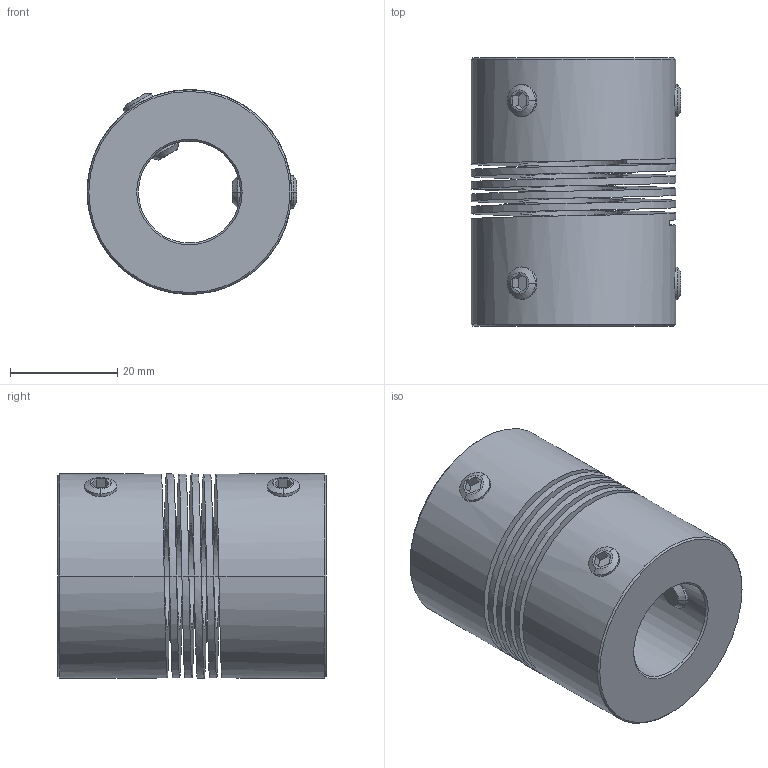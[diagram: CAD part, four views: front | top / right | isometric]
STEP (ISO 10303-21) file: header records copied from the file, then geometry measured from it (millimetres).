
FILE_DESCRIPTION((''),'2;1');
FILE_NAME('826_38_ASM','2006-12-06T',('Gary Melling'),(''),'PRO/ENGINEER BY PARAMETRIC TECHNOLOGY CORPORATION, 2006240','PRO/ENGINEER BY PARAMETRIC TECHNOLOGY CORPORATION, 2006240','');
FILE_SCHEMA(('CONFIG_CONTROL_DESIGN'));
Length unit declared in the file: millimetre
Products named in the file (3): 826_38; GS_6; 826_38_ASM
Assembly tree (5 placements, depth 2):
  826_38_ASM
    826_38
    GS_6  x4
Bounding box: 39.05 x 50 x 38.1 mm (x, y, z)
Volume: 38247.9 mm3; surface area: 19796.6 mm2
Topology: 5 solids, 5 shells, 112 faces, 282 edges, 180 vertices
Faces by surface type: plane 42, cylinder 42, cone 24, bspline 4
Entity records: 3839 total; most frequent: CARTESIAN_POINT 2124, ORIENTED_EDGE 372, DIRECTION 288, EDGE_CURVE 186, VERTEX_POINT 120, AXIS2_PLACEMENT_3D 103, VECTOR 82, LINE 82
